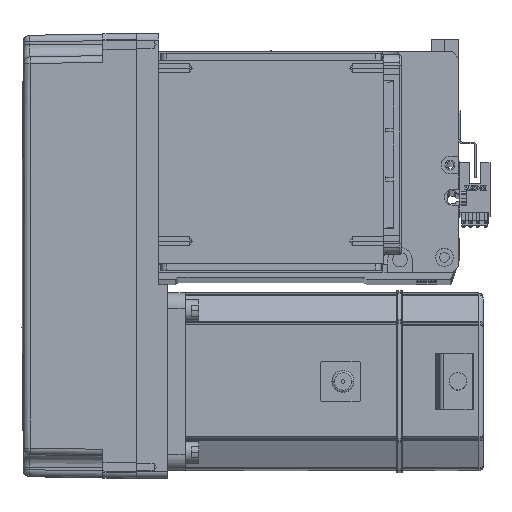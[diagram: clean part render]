
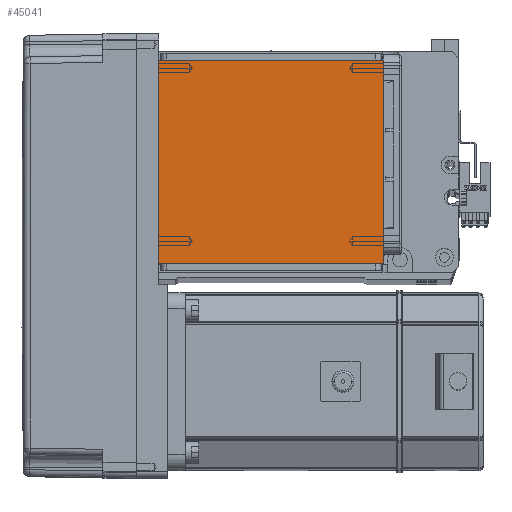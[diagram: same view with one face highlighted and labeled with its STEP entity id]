
A CAD part, top view. The second image highlights one B-rep face of the part: STEP entity #45041.
In plain terms, the highlighted planar face has unit normal (0, 0, 1).
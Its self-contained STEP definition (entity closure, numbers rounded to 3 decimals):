
#1579 = CARTESIAN_POINT ( 'NONE',  ( 50.5, 20., 115. ) ) ;
#2583 = VERTEX_POINT ( 'NONE', #1579 ) ;
#6708 = EDGE_CURVE ( 'NONE', #27034, #38727, #13502, .T. ) ;
#7494 = CARTESIAN_POINT ( 'NONE',  ( -50.5, 20., 115. ) ) ;
#10571 = DIRECTION ( 'NONE',  ( 1., 0., 0. ) ) ;
#12183 = EDGE_CURVE ( 'NONE', #27034, #15927, #51173, .T. ) ;
#13502 = LINE ( 'NONE', #19621, #54530 ) ;
#14245 = LINE ( 'NONE', #57116, #28448 ) ;
#14794 = CARTESIAN_POINT ( 'NONE',  ( 50.5, 122., 115. ) ) ;
#15927 = VERTEX_POINT ( 'NONE', #7494 ) ;
#16212 = PLANE ( 'NONE',  #56026 ) ;
#17238 = ORIENTED_EDGE ( 'NONE', *, *, #40479, .F. ) ;
#19621 = CARTESIAN_POINT ( 'NONE',  ( -70.004, 111.5, 115. ) ) ;
#19629 = DIRECTION ( 'NONE',  ( 0., 1., 0. ) ) ;
#20949 = DIRECTION ( 'NONE',  ( 0., -1., 0. ) ) ;
#22882 = EDGE_CURVE ( 'NONE', #2583, #38727, #27019, .T. ) ;
#27019 = LINE ( 'NONE', #14794, #55884 ) ;
#27034 = VERTEX_POINT ( 'NONE', #58639 ) ;
#28448 = VECTOR ( 'NONE', #38603, 1000. ) ;
#29650 = DIRECTION ( 'NONE',  ( 0., 0., 1. ) ) ;
#29961 = CARTESIAN_POINT ( 'NONE',  ( -50.5, 122., 115. ) ) ;
#36668 = ORIENTED_EDGE ( 'NONE', *, *, #6708, .F. ) ;
#38369 = DIRECTION ( 'NONE',  ( 1., 0., 0. ) ) ;
#38603 = DIRECTION ( 'NONE',  ( -1., 0., 0. ) ) ;
#38727 = VERTEX_POINT ( 'NONE', #54678 ) ;
#40479 = EDGE_CURVE ( 'NONE', #2583, #15927, #14245, .T. ) ;
#40821 = ORIENTED_EDGE ( 'NONE', *, *, #22882, .T. ) ;
#44120 = EDGE_LOOP ( 'NONE', ( #36668, #57748, #17238, #40821 ) ) ;
#45041 = ADVANCED_FACE ( 'NONE', ( #56726 ), #16212, .T. ) ;
#47987 = CARTESIAN_POINT ( 'NONE',  ( 0., 0., 115. ) ) ;
#49736 = VECTOR ( 'NONE', #20949, 1000. ) ;
#51173 = LINE ( 'NONE', #29961, #49736 ) ;
#54530 = VECTOR ( 'NONE', #10571, 1000. ) ;
#54678 = CARTESIAN_POINT ( 'NONE',  ( 50.5, 111.5, 115. ) ) ;
#55884 = VECTOR ( 'NONE', #19629, 1000. ) ;
#56026 = AXIS2_PLACEMENT_3D ( 'NONE', #47987, #29650, #38369 ) ;
#56726 = FACE_OUTER_BOUND ( 'NONE', #44120, .T. ) ;
#57116 = CARTESIAN_POINT ( 'NONE',  ( -70.004, 20., 115. ) ) ;
#57748 = ORIENTED_EDGE ( 'NONE', *, *, #12183, .T. ) ;
#58639 = CARTESIAN_POINT ( 'NONE',  ( -50.5, 111.5, 115. ) ) ;
